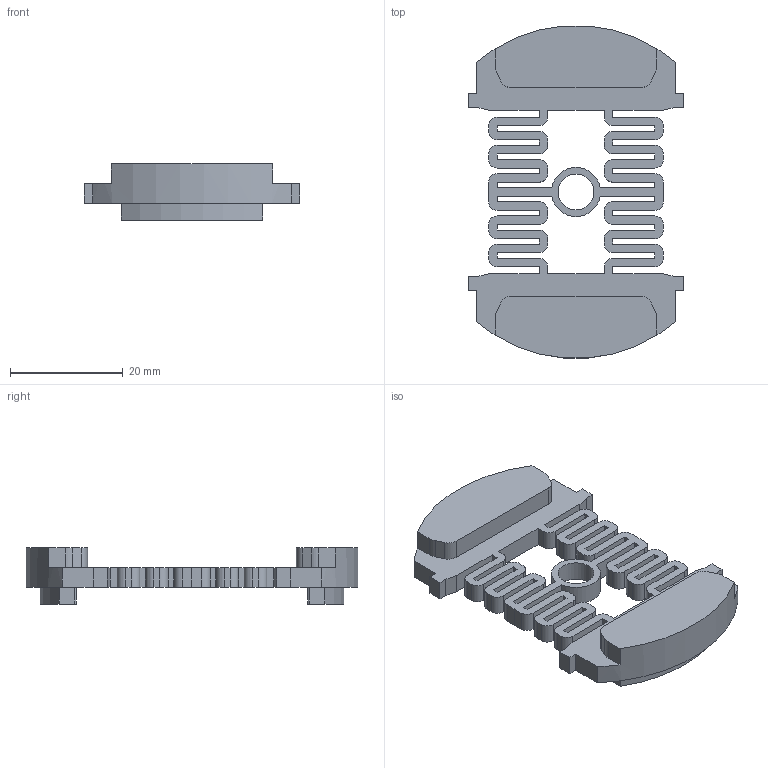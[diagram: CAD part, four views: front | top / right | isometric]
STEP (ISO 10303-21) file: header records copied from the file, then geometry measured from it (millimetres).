
FILE_DESCRIPTION(/* description */ ('STEP AP242','CAx-IF Rec.Pracs.---Representation and Presentation of Product Manufacturing Information (PMI)---4.0---2014-10-13','CAx-IF Rec.Pracs.---3D Tessellated Geometry---0.4---2014-09-14','2;1'),/* implementation_level */ '2;1');
FILE_NAME(/* name */ '6242dcc97278440e394a3047',/* time_stamp */ '2022-03-29T10:17:46+00:00',/* author */ (''),/* organization */ (''),/* preprocessor_version */ 'ST-DEVELOPER v18.101',/* originating_system */ ' ',/* authorisation */ ' ');
FILE_SCHEMA (('AP242_MANAGED_MODEL_BASED_3D_ENGINEERING_MIM_LF { 1 0 10303 442 1 1 4 }'));
Length unit declared in the file: metre
Products named in the file (1): Part 3
Bounding box: 38.2 x 58.83 x 10 mm (x, y, z)
Volume: 7325.3 mm3; surface area: 5972.1 mm2
Topology: 1 solids, 1 shells, 199 faces, 585 edges, 390 vertices
Faces by surface type: plane 140, cylinder 59
Full cylindrical faces by diameter (mm): 6.343 x1
Entity records: 6638 total; most frequent: CARTESIAN_POINT 1198, ORIENTED_EDGE 1168, DIRECTION 1098, EDGE_CURVE 584, LINE 454, VECTOR 454, VERTEX_POINT 390, AXIS2_PLACEMENT_3D 322
